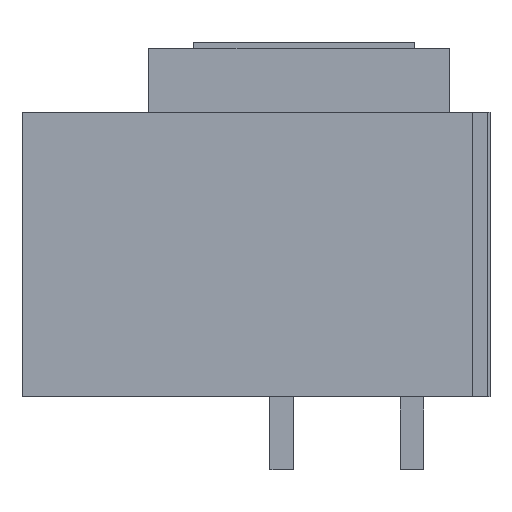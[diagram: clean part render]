
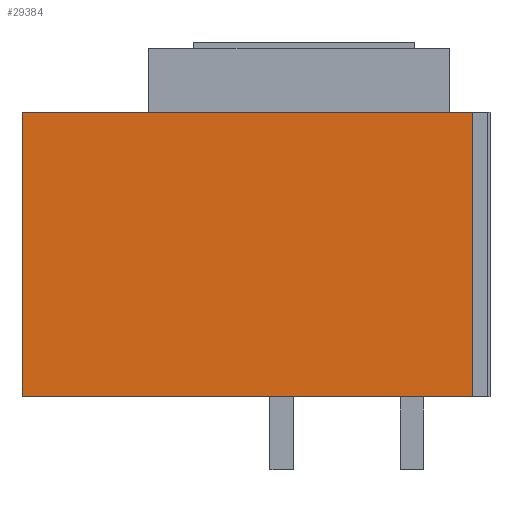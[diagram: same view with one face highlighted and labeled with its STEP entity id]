
A CAD part, left-side view. The second image highlights one B-rep face of the part: STEP entity #29384.
In plain terms, the highlighted planar face has unit normal (-1, 0, 0).
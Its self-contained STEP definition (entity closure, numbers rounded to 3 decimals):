
#970 = VECTOR ( 'NONE', #22055, 1000. ) ;
#2921 = CARTESIAN_POINT ( 'NONE',  ( -159., 0., -244.5 ) ) ;
#3548 = CARTESIAN_POINT ( 'NONE',  ( -159., 0., 0. ) ) ;
#6931 = FACE_OUTER_BOUND ( 'NONE', #11607, .T. ) ;
#7959 = VECTOR ( 'NONE', #25724, 1000. ) ;
#8351 = LINE ( 'NONE', #19605, #35685 ) ;
#8447 = CARTESIAN_POINT ( 'NONE',  ( -159., 15., -244.5 ) ) ;
#8450 = DIRECTION ( 'NONE',  ( 0., 0., 1. ) ) ;
#9958 = VERTEX_POINT ( 'NONE', #12675 ) ;
#10971 = LINE ( 'NONE', #3548, #7959 ) ;
#11260 = LINE ( 'NONE', #29019, #32511 ) ;
#11607 = EDGE_LOOP ( 'NONE', ( #14439, #24606, #19887, #14888 ) ) ;
#11739 = EDGE_CURVE ( 'NONE', #15184, #28080, #10971, .T. ) ;
#12675 = CARTESIAN_POINT ( 'NONE',  ( -159., 402., -244.5 ) ) ;
#13335 = AXIS2_PLACEMENT_3D ( 'NONE', #31722, #28582, #20575 ) ;
#13449 = VERTEX_POINT ( 'NONE', #8447 ) ;
#14439 = ORIENTED_EDGE ( 'NONE', *, *, #11739, .F. ) ;
#14888 = ORIENTED_EDGE ( 'NONE', *, *, #26144, .T. ) ;
#15184 = VERTEX_POINT ( 'NONE', #35570 ) ;
#16480 = CARTESIAN_POINT ( 'NONE',  ( -159., 15., 0. ) ) ;
#19605 = CARTESIAN_POINT ( 'NONE',  ( -159., 15., -244.5 ) ) ;
#19887 = ORIENTED_EDGE ( 'NONE', *, *, #27192, .T. ) ;
#19978 = EDGE_CURVE ( 'NONE', #9958, #15184, #11260, .T. ) ;
#20575 = DIRECTION ( 'NONE',  ( 0., -1., 0. ) ) ;
#22055 = DIRECTION ( 'NONE',  ( 0., -1., 0. ) ) ;
#23916 = LINE ( 'NONE', #2921, #970 ) ;
#24606 = ORIENTED_EDGE ( 'NONE', *, *, #19978, .F. ) ;
#25724 = DIRECTION ( 'NONE',  ( 0., -1., 0. ) ) ;
#26144 = EDGE_CURVE ( 'NONE', #13449, #28080, #8351, .T. ) ;
#27192 = EDGE_CURVE ( 'NONE', #9958, #13449, #23916, .T. ) ;
#28080 = VERTEX_POINT ( 'NONE', #16480 ) ;
#28338 = PLANE ( 'NONE',  #13335 ) ;
#28582 = DIRECTION ( 'NONE',  ( -1., 0., 0. ) ) ;
#29019 = CARTESIAN_POINT ( 'NONE',  ( -159., 402., -244.5 ) ) ;
#29384 = ADVANCED_FACE ( 'NONE', ( #6931 ), #28338, .T. ) ;
#31722 = CARTESIAN_POINT ( 'NONE',  ( -159., 0., -244.5 ) ) ;
#32511 = VECTOR ( 'NONE', #35352, 1000. ) ;
#35352 = DIRECTION ( 'NONE',  ( 0., 0., 1. ) ) ;
#35570 = CARTESIAN_POINT ( 'NONE',  ( -159., 402., 0. ) ) ;
#35685 = VECTOR ( 'NONE', #8450, 1000. ) ;
